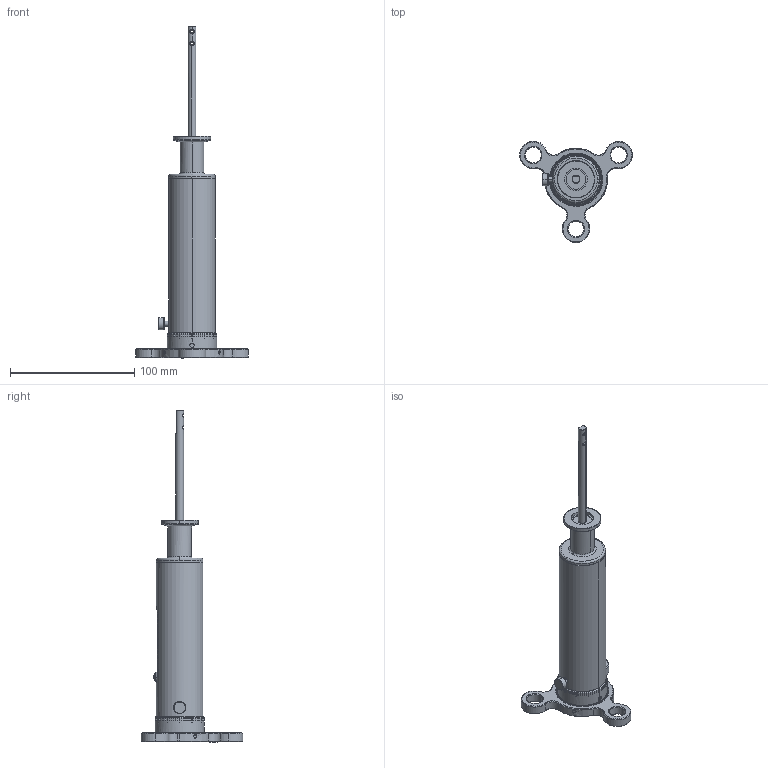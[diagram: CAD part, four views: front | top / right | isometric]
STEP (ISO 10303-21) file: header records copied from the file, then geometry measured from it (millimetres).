
FILE_DESCRIPTION (( 'STEP AP203' ), '1' );
FILE_NAME ('102260-113086.stp', '2019-04-09T21:32:41', ( '' ), ( '' ), 'SwSTEP 2.0', 'SolidWorks 2012', '' );
FILE_SCHEMA (( 'CONFIG_CONTROL_DESIGN' ));
Length unit declared in the file: centimetre
Products named in the file (1): 102260-113086
Bounding box: 90.97 x 81.76 x 267.39 mm (x, y, z)
Volume: 189953.4 mm3; surface area: 31208.7 mm2
Topology: 1 solids, 1 shells, 1501 faces, 4335 edges, 2878 vertices
Faces by surface type: plane 918, cylinder 349, bspline 153, cone 81
Entity records: 78903 total; most frequent: CARTESIAN_POINT 44162, ORIENTED_EDGE 8670, DIRECTION 5145, EDGE_CURVE 4335, VERTEX_POINT 2878, B_SPLINE_CURVE_WITH_KNOTS 2487, AXIS2_PLACEMENT_3D 1953, EDGE_LOOP 1559
